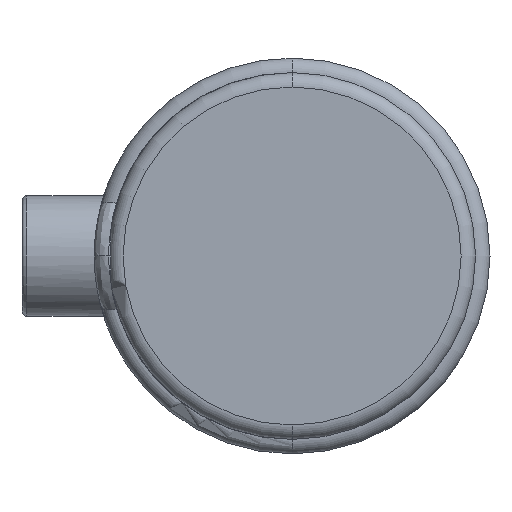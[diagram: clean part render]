
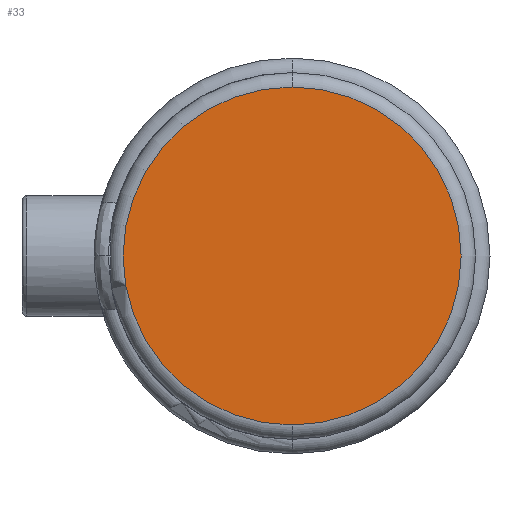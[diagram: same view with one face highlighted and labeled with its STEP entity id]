
A CAD part, left-side view. The second image highlights one B-rep face of the part: STEP entity #33.
In plain terms, the highlighted planar face has unit normal (-1, 0, 0).
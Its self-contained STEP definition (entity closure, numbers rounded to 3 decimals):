
#20 = AXIS2_PLACEMENT_3D ( 'NONE', #5594, #2894, #233 ) ;
#33 = ADVANCED_FACE ( 'NONE', ( #5204 ), #2216, .T. ) ;
#233 = DIRECTION ( 'NONE',  ( 0., 0., 1. ) ) ;
#675 = CARTESIAN_POINT ( 'NONE',  ( 0., 0., -35.1 ) ) ;
#928 = DIRECTION ( 'NONE',  ( 0., 0., 1. ) ) ;
#1147 = CIRCLE ( 'NONE', #20, 35.1 ) ;
#1226 = DIRECTION ( 'NONE',  ( -1., 0., 0. ) ) ;
#1792 = CARTESIAN_POINT ( 'NONE',  ( 0., 0., 0. ) ) ;
#1981 = DIRECTION ( 'NONE',  ( -1., 0., 0. ) ) ;
#2216 = PLANE ( 'NONE',  #5383 ) ;
#2894 = DIRECTION ( 'NONE',  ( -1., 0., 0. ) ) ;
#3048 = VERTEX_POINT ( 'NONE', #675 ) ;
#3824 = CARTESIAN_POINT ( 'NONE',  ( 0., 0., 35.1 ) ) ;
#3839 = EDGE_LOOP ( 'NONE', ( #5768, #4866 ) ) ;
#4247 = VERTEX_POINT ( 'NONE', #3824 ) ;
#4454 = CIRCLE ( 'NONE', #4628, 35.1 ) ;
#4628 = AXIS2_PLACEMENT_3D ( 'NONE', #4672, #1981, #5128 ) ;
#4672 = CARTESIAN_POINT ( 'NONE',  ( 0., 0., 0. ) ) ;
#4866 = ORIENTED_EDGE ( 'NONE', *, *, #4961, .T. ) ;
#4900 = EDGE_CURVE ( 'NONE', #4247, #3048, #4454, .T. ) ;
#4961 = EDGE_CURVE ( 'NONE', #3048, #4247, #1147, .T. ) ;
#5128 = DIRECTION ( 'NONE',  ( 0., 0., 1. ) ) ;
#5204 = FACE_OUTER_BOUND ( 'NONE', #3839, .T. ) ;
#5383 = AXIS2_PLACEMENT_3D ( 'NONE', #1792, #1226, #928 ) ;
#5594 = CARTESIAN_POINT ( 'NONE',  ( 0., 0., 0. ) ) ;
#5768 = ORIENTED_EDGE ( 'NONE', *, *, #4900, .T. ) ;
